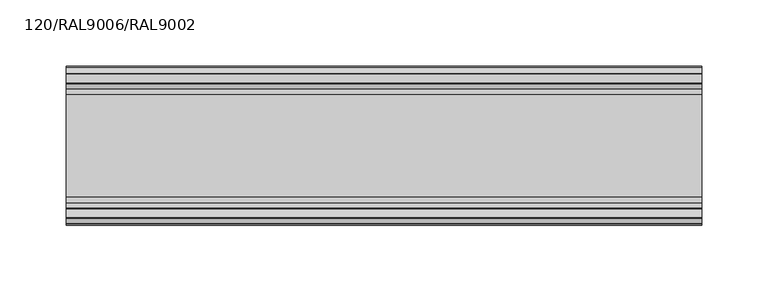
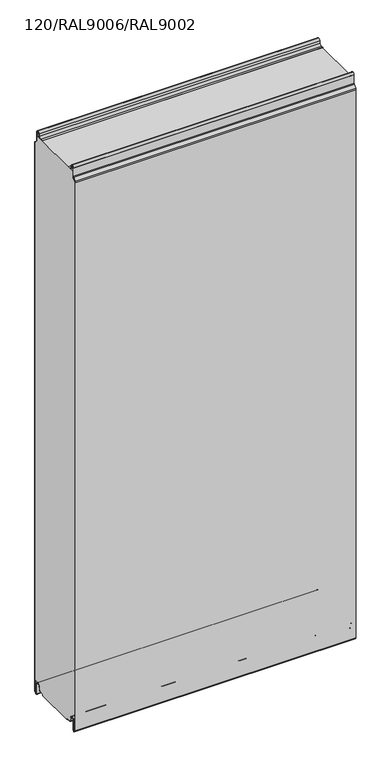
"""IFC4 building model written with IfcOpenShell, lengths in millimetres: plate geometry, TR_C_H_FTV_Panel : 120/RAL9006/RAL9002."""

from ifc_helpers import new_model, si_unit, point, frame, frame_2d, origin, place, context, project, spatial, polyline, circle_curve, trimmed, segment, composite_curve, outline, extrude, source, transform, mapped, element, save


def plate_120_ral9006_ral9002_ab2d50b4(model_context):
    return source(origin(), model_context, "Body", "SweptSolid", [
        extrude(outline(composite_curve([segment(polyline([(-0.8, 14.4000012), (-9.45, 14.4000012)]), True, "CONTINUOUS"), segment(trimmed(circle_curve(frame_2d((-9.45, 10.1500012)), 4.25), [point((-9.45, 14.4000012))], [point((-13.635433, 10.8880059))], True, "CARTESIAN"), True, "CONTINUOUS"), segment(polyline([(-13.635433, 10.8880059), (-14.7022582, 4.837739)]), True, "CONTINUOUS"), segment(trimmed(circle_curve(frame_2d((-17.6074411, 5.3500012)), 2.95), [point((-14.7022582, 4.837739))], [point((-17.6074411, 2.4000012))], False, "CARTESIAN"), True, "CONTINUOUS"), segment(polyline([(-17.6074411, 2.4000012), (-23.7, 2.4000012), (-23.7, 1.2e-06), (-96.3, 1.2e-06), (-96.3, 2.4000012), (-102.3925589, 2.4000012)]), True, "CONTINUOUS"), segment(trimmed(circle_curve(frame_2d((-102.3925589, 5.3500012)), 2.95), [point((-102.3925589, 2.4000012))], [point((-105.2977418, 4.837739))], False, "CARTESIAN"), True, "CONTINUOUS"), segment(polyline([(-105.2977418, 4.837739), (-106.364567, 10.8880059)]), True, "CONTINUOUS"), segment(trimmed(circle_curve(frame_2d((-110.55, 10.1500012)), 4.25), [point((-106.364567, 10.8880059))], [point((-110.55, 14.4000012))], True, "CARTESIAN"), True, "CONTINUOUS"), segment(polyline([(-110.55, 14.4000012), (-119.2, 14.4000012), (-119.2, 984.3218266)]), True, "CONTINUOUS"), segment(trimmed(circle_curve(frame_2d((-117.0, 984.3218266)), 2.2), [point((-119.2, 984.3218266))], [point((-118.5556349, 985.8774615))], False, "CARTESIAN"), True, "CONTINUOUS"), segment(polyline([(-118.5556349, 985.8774615), (-114.1665476, 990.2665488)]), True, "CONTINUOUS"), segment(trimmed(circle_curve(frame_2d((-116.5, 992.6000012)), 3.3), [point((-114.1665476, 990.2665488))], [point((-113.2, 992.6000012))], True, "CARTESIAN"), True, "CONTINUOUS"), segment(polyline([(-113.2, 992.6000012), (-113.2, 1000.0), (-6.8, 1000.0), (-6.8, 992.6000012)]), True, "CONTINUOUS"), segment(trimmed(circle_curve(frame_2d((-3.5, 992.6000012)), 3.3), [point((-6.8, 992.6000012))], [point((-5.8334524, 990.2665488))], True, "CARTESIAN"), True, "CONTINUOUS"), segment(polyline([(-5.8334524, 990.2665488), (-1.4443651, 985.8774615)]), True, "CONTINUOUS"), segment(trimmed(circle_curve(frame_2d((-3.0, 984.3218266)), 2.2), [point((-1.4443651, 985.8774615))], [point((-0.8, 984.3218266))], False, "CARTESIAN"), True, "CONTINUOUS"), segment(polyline([(-0.8, 984.3218266), (-0.8, 14.4000012)]), True, "CONTINUOUS")], self_intersect=False)), frame((-240.0, 0.0, 0.0), z_axis=(1.0, 0.0, 0.0), x_axis=(0.0, 1.0, 0.0)), (0.0, 0.0, 1.0), 480.0),
        extrude(outline(composite_curve([segment(polyline([(-21.0, 2.4000012), (-17.6074411, 2.4000012)]), True, "CONTINUOUS"), segment(trimmed(circle_curve(frame_2d((-17.6074411, 5.3500012)), 2.95), [point((-17.6074411, 2.4000012))], [point((-14.7022582, 4.837739))], True, "CARTESIAN"), True, "CONTINUOUS"), segment(polyline([(-14.7022582, 4.837739), (-13.635433, 10.8880059)]), True, "CONTINUOUS"), segment(trimmed(circle_curve(frame_2d((-9.45, 10.1500012)), 4.25), [point((-13.635433, 10.8880059))], [point((-5.2, 10.1500012))], False, "CARTESIAN"), True, "CONTINUOUS"), segment(polyline([(-5.2, 10.1500012), (-5.2, -7.4499988)]), True, "CONTINUOUS"), segment(trimmed(circle_curve(frame_2d((-4.05, -7.4499988)), 1.15), [point((-5.2, -7.4499988))], [point((-3.2368272, -8.2631716))], True, "CARTESIAN"), True, "CONTINUOUS"), segment(polyline([(-3.2368272, -8.2631716), (-1.3711418, -6.3974862)]), True, "CONTINUOUS"), segment(trimmed(circle_curve(frame_2d((-2.75, -5.018628)), 1.95), [point((-1.3711418, -6.3974862))], [point((-0.8, -5.018628))], True, "CARTESIAN"), True, "CONTINUOUS"), segment(polyline([(-0.8, -5.018628), (-0.8, 984.3218266)]), True, "CONTINUOUS"), segment(trimmed(circle_curve(frame_2d((-3.0, 984.3218266)), 2.2), [point((-0.8, 984.3218266))], [point((-1.4443651, 985.8774615))], True, "CARTESIAN"), True, "CONTINUOUS"), segment(polyline([(-1.4443651, 985.8774615), (-5.8334524, 990.2665488)]), True, "CONTINUOUS"), segment(trimmed(circle_curve(frame_2d((-3.5, 992.6000012)), 3.3), [point((-5.8334524, 990.2665488))], [point((-6.8, 992.6000012))], False, "CARTESIAN"), True, "CONTINUOUS"), segment(polyline([(-6.8, 992.6000012), (-6.8, 1007.3500012)]), True, "CONTINUOUS"), segment(trimmed(circle_curve(frame_2d((-9.25, 1007.3500012)), 2.45), [point((-6.8, 1007.3500012))], [point((-11.662779, 1007.7754392))], True, "CARTESIAN"), True, "CONTINUOUS"), segment(polyline([(-11.662779, 1007.7754392), (-12.4060919, 1003.559902)]), True, "CONTINUOUS"), segment(trimmed(circle_curve(frame_2d((-16.8869672, 1004.3500012)), 4.55), [point((-12.4060919, 1003.559902))], [point((-16.8869672, 999.8000012))], False, "CARTESIAN"), True, "CONTINUOUS"), segment(polyline([(-16.8869672, 999.8000012), (-21.0, 999.8000012), (-21.0, 1000.6000012), (-16.8869672, 1000.6000012)]), True, "CONTINUOUS"), segment(trimmed(circle_curve(frame_2d((-16.8869672, 1004.3500012)), 3.75), [point((-16.8869672, 1000.6000012))], [point((-13.1939382, 1003.6988205))], True, "CARTESIAN"), True, "CONTINUOUS"), segment(polyline([(-13.1939382, 1003.6988205), (-12.4506252, 1007.9143577)]), True, "CONTINUOUS"), segment(trimmed(circle_curve(frame_2d((-9.25, 1007.3500012)), 3.25), [point((-12.4506252, 1007.9143577))], [point((-6.0, 1007.3500012))], False, "CARTESIAN"), True, "CONTINUOUS"), segment(polyline([(-6.0, 1007.3500012), (-6.0, 992.6000012)]), True, "CONTINUOUS"), segment(trimmed(circle_curve(frame_2d((-3.5, 992.6000012)), 2.5), [point((-6.0, 992.6000012))], [point((-5.267767, 990.8322342))], True, "CARTESIAN"), True, "CONTINUOUS"), segment(polyline([(-5.267767, 990.8322342), (-0.8786797, 986.4431469)]), True, "CONTINUOUS"), segment(trimmed(circle_curve(frame_2d((-3.0, 984.3218266)), 3.0), [point((-0.8786797, 986.4431469))], [point((0.0, 984.3218266))], False, "CARTESIAN"), True, "CONTINUOUS"), segment(polyline([(0.0, 984.3218266), (0.0, -5.018628)]), True, "CONTINUOUS"), segment(trimmed(circle_curve(frame_2d((-2.75, -5.018628)), 2.75), [point((0.0, -5.018628))], [point((-0.8054564, -6.9631716))], False, "CARTESIAN"), True, "CONTINUOUS"), segment(polyline([(-0.8054564, -6.9631716), (-2.6711418, -8.8288571)]), True, "CONTINUOUS"), segment(trimmed(circle_curve(frame_2d((-4.05, -7.4499988)), 1.95), [point((-2.6711418, -8.8288571))], [point((-6.0, -7.4499988))], False, "CARTESIAN"), True, "CONTINUOUS"), segment(polyline([(-6.0, -7.4499988), (-6.0, 10.1500012)]), True, "CONTINUOUS"), segment(trimmed(circle_curve(frame_2d((-9.45, 10.1500012)), 3.45), [point((-6.0, 10.1500012))], [point((-12.8475867, 10.7490874))], True, "CARTESIAN"), True, "CONTINUOUS"), segment(polyline([(-12.8475867, 10.7490874), (-13.914412, 4.6988205)]), True, "CONTINUOUS"), segment(trimmed(circle_curve(frame_2d((-17.6074411, 5.3500012)), 3.75), [point((-13.914412, 4.6988205))], [point((-17.6074411, 1.6000012))], False, "CARTESIAN"), True, "CONTINUOUS"), segment(polyline([(-17.6074411, 1.6000012), (-21.0, 1.6000012), (-21.0, 2.4000012)]), True, "CONTINUOUS")], self_intersect=False)), frame((-240.0, 0.0, 0.0), z_axis=(1.0, 0.0, 0.0), x_axis=(0.0, 1.0, 0.0)), (0.0, 0.0, 1.0), 480.0),
        extrude(outline(composite_curve([segment(trimmed(circle_curve(frame_2d((-103.1130328, 1004.3500012)), 4.55), [point((-103.1130328, 999.8000012))], [point((-107.5939081, 1003.559902))], False, "CARTESIAN"), True, "CONTINUOUS"), segment(polyline([(-107.5939081, 1003.559902), (-108.337221, 1007.7754392)]), True, "CONTINUOUS"), segment(trimmed(circle_curve(frame_2d((-110.75, 1007.3500012)), 2.45), [point((-108.337221, 1007.7754392))], [point((-113.2, 1007.3500012))], True, "CARTESIAN"), True, "CONTINUOUS"), segment(polyline([(-113.2, 1007.3500012), (-113.2, 992.6000012)]), True, "CONTINUOUS"), segment(trimmed(circle_curve(frame_2d((-116.5, 992.6000012)), 3.3), [point((-113.2, 992.6000012))], [point((-114.1665476, 990.2665488))], False, "CARTESIAN"), True, "CONTINUOUS"), segment(polyline([(-114.1665476, 990.2665488), (-118.5556349, 985.8774615)]), True, "CONTINUOUS"), segment(trimmed(circle_curve(frame_2d((-117.0, 984.3218266)), 2.2), [point((-118.5556349, 985.8774615))], [point((-119.2, 984.3218266))], True, "CARTESIAN"), True, "CONTINUOUS"), segment(polyline([(-119.2, 984.3218266), (-119.2, -5.018628)]), True, "CONTINUOUS"), segment(trimmed(circle_curve(frame_2d((-117.25, -5.018628)), 1.95), [point((-119.2, -5.018628))], [point((-118.6288582, -6.3974862))], True, "CARTESIAN"), True, "CONTINUOUS"), segment(polyline([(-118.6288582, -6.3974862), (-116.7631728, -8.2631716)]), True, "CONTINUOUS"), segment(trimmed(circle_curve(frame_2d((-115.95, -7.4499988)), 1.15), [point((-116.7631728, -8.2631716))], [point((-114.8, -7.4499988))], True, "CARTESIAN"), True, "CONTINUOUS"), segment(polyline([(-114.8, -7.4499988), (-114.8, 10.1500012)]), True, "CONTINUOUS"), segment(trimmed(circle_curve(frame_2d((-110.55, 10.1500012)), 4.25), [point((-114.8, 10.1500012))], [point((-106.364567, 10.8880059))], False, "CARTESIAN"), True, "CONTINUOUS"), segment(polyline([(-106.364567, 10.8880059), (-105.2977418, 4.837739)]), True, "CONTINUOUS"), segment(trimmed(circle_curve(frame_2d((-102.3925589, 5.3500012)), 2.95), [point((-105.2977418, 4.837739))], [point((-102.3925589, 2.4000012))], True, "CARTESIAN"), True, "CONTINUOUS"), segment(polyline([(-102.3925589, 2.4000012), (-99.0, 2.4000012), (-99.0, 1.6000012), (-102.3925589, 1.6000012)]), True, "CONTINUOUS"), segment(trimmed(circle_curve(frame_2d((-102.3925589, 5.3500012)), 3.75), [point((-102.3925589, 1.6000012))], [point((-106.085588, 4.6988205))], False, "CARTESIAN"), True, "CONTINUOUS"), segment(polyline([(-106.085588, 4.6988205), (-107.1524133, 10.7490874)]), True, "CONTINUOUS"), segment(trimmed(circle_curve(frame_2d((-110.55, 10.1500012)), 3.45), [point((-107.1524133, 10.7490874))], [point((-114.0, 10.1500012))], True, "CARTESIAN"), True, "CONTINUOUS"), segment(polyline([(-114.0, 10.1500012), (-114.0, -7.4499988)]), True, "CONTINUOUS"), segment(trimmed(circle_curve(frame_2d((-115.95, -7.4499988)), 1.95), [point((-114.0, -7.4499988))], [point((-117.3288582, -8.8288571))], False, "CARTESIAN"), True, "CONTINUOUS"), segment(polyline([(-117.3288582, -8.8288571), (-119.1945436, -6.9631716)]), True, "CONTINUOUS"), segment(trimmed(circle_curve(frame_2d((-117.25, -5.018628)), 2.75), [point((-119.1945436, -6.9631716))], [point((-120.0, -5.018628))], False, "CARTESIAN"), True, "CONTINUOUS"), segment(polyline([(-120.0, -5.018628), (-120.0, 984.3218266)]), True, "CONTINUOUS"), segment(trimmed(circle_curve(frame_2d((-117.0, 984.3218266)), 3.0), [point((-120.0, 984.3218266))], [point((-119.1213203, 986.4431469))], False, "CARTESIAN"), True, "CONTINUOUS"), segment(polyline([(-119.1213203, 986.4431469), (-114.732233, 990.8322342)]), True, "CONTINUOUS"), segment(trimmed(circle_curve(frame_2d((-116.5, 992.6000012)), 2.5), [point((-114.732233, 990.8322342))], [point((-114.0, 992.6000012))], True, "CARTESIAN"), True, "CONTINUOUS"), segment(polyline([(-114.0, 992.6000012), (-114.0, 1007.3500012)]), True, "CONTINUOUS"), segment(trimmed(circle_curve(frame_2d((-110.75, 1007.3500012)), 3.25), [point((-114.0, 1007.3500012))], [point((-107.5493748, 1007.9143577))], False, "CARTESIAN"), True, "CONTINUOUS"), segment(polyline([(-107.5493748, 1007.9143577), (-106.8060618, 1003.6988205)]), True, "CONTINUOUS"), segment(trimmed(circle_curve(frame_2d((-103.1130328, 1004.3500012)), 3.75), [point((-106.8060618, 1003.6988205))], [point((-103.1130328, 1000.6000012))], True, "CARTESIAN"), True, "CONTINUOUS"), segment(polyline([(-103.1130328, 1000.6000012), (-99.0, 1000.6000012), (-99.0, 999.8000012), (-103.1130328, 999.8000012)]), True, "CONTINUOUS")], self_intersect=False)), frame((-240.0, 0.0, 0.0), z_axis=(1.0, 0.0, 0.0), x_axis=(0.0, 1.0, 0.0)), (0.0, 0.0, 1.0), 480.0),
    ])


if __name__ == "__main__":
    model = new_model("IFC4")
    model_context = context("Model", 3, world=origin())
    ifc_project = project(units=[si_unit("LENGTHUNIT", "METRE", prefix="MILLI")], contexts=[model_context])
    site = spatial("IfcSite", under=ifc_project)
    building = spatial("IfcBuilding", under=site)
    placement = place(None, origin())
    plate_120_ral9006_ral9002_shape = plate_120_ral9006_ral9002_ab2d50b4(model_context)
    element("IfcPlate", 1, ObjectType="TR_C_H_FTV_Panel : 120/RAL9006/RAL9002", at=placement, inside=building, context=model_context, shape_type="MappedRepresentation", body=[
        mapped(plate_120_ral9006_ral9002_shape, transform((0.0, 0.0, 0.0), x_axis=(1.0, 0.0, 0.0), y_axis=(0.0, 1.0, 0.0), z_axis=(0.0, 0.0, 1.0))),
    ])
    save(model, "model.ifc")
